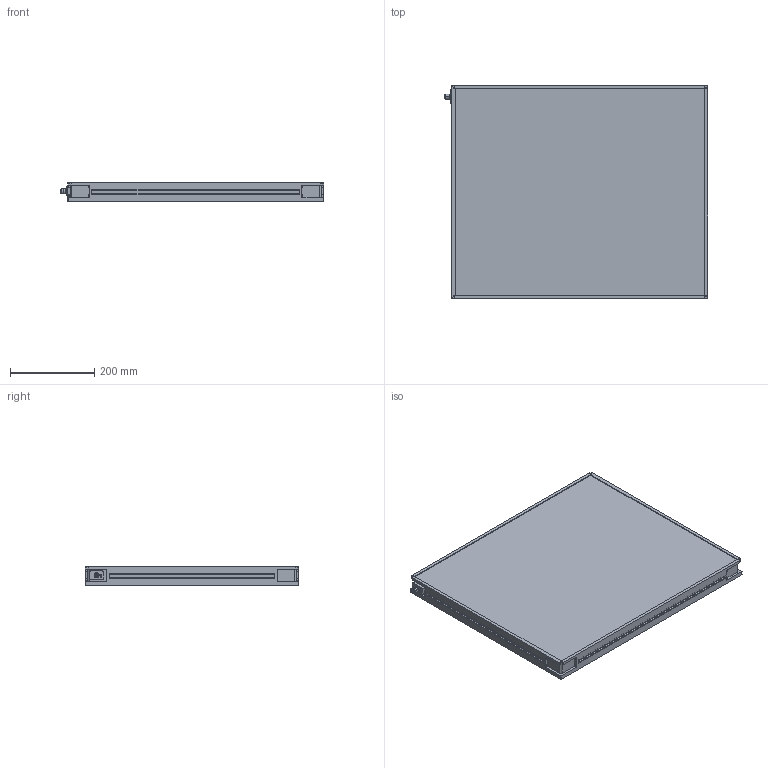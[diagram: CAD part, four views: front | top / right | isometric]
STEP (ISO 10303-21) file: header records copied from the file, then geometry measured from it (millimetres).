
FILE_DESCRIPTION (( 'STEP AP214' ), '1' );
FILE_NAME ('MBACK-xxxx-xxx-M1_CLIENT500x600.STEP', '2022-03-31T16:19:40', ( '' ), ( '' ), 'SwSTEP 2.0', 'SolidWorks 2020', '' );
FILE_SCHEMA (( 'AUTOMOTIVE_DESIGN' ));
Length unit declared in the file: millimetre
Products named in the file (1): MBACK-xxxx-xxx-M1_CLIENT500x600
Bounding box: 625.9 x 508 x 45.5 mm (x, y, z)
Volume: 12818383.5 mm3; surface area: 765797.3 mm2
Topology: 1 solids, 1 shells, 442 faces, 1144 edges, 760 vertices
Faces by surface type: plane 249, cylinder 105, bspline 80, cone 8
Entity records: 17236 total; most frequent: CARTESIAN_POINT 6699, ORIENTED_EDGE 2288, DIRECTION 1936, EDGE_CURVE 1144, VERTEX_POINT 760, VECTOR 758, LINE 758, AXIS2_PLACEMENT_3D 589
